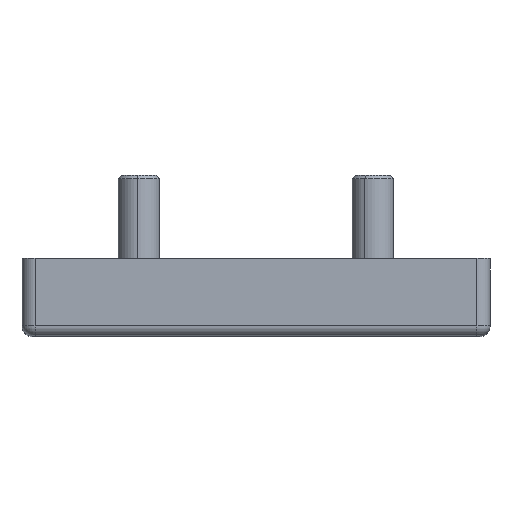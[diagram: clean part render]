
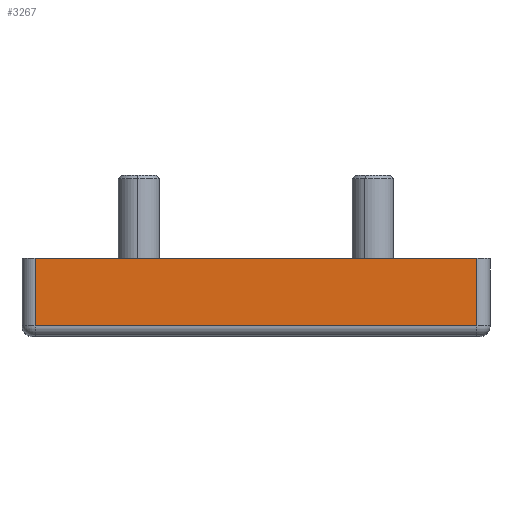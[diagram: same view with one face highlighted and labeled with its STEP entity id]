
A CAD part, top view. The second image highlights one B-rep face of the part: STEP entity #3267.
In plain terms, the highlighted planar face has unit normal (0, 0, 1).
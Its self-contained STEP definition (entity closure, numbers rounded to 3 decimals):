
#11 = VERTEX_POINT ( 'NONE', #6112 ) ;
#997 = DIRECTION ( 'NONE',  ( 0., 1., 0. ) ) ;
#1091 = ORIENTED_EDGE ( 'NONE', *, *, #4465, .T. ) ;
#1117 = CARTESIAN_POINT ( 'NONE',  ( 627.875, 889.927, 1363.825 ) ) ;
#1176 = VECTOR ( 'NONE', #5275, 1000. ) ;
#1540 = CARTESIAN_POINT ( 'NONE',  ( 712.875, 902.927, 1363.825 ) ) ;
#1695 = VERTEX_POINT ( 'NONE', #6280 ) ;
#1712 = LINE ( 'NONE', #4088, #1176 ) ;
#1766 = EDGE_LOOP ( 'NONE', ( #6852, #4665, #1091, #3750 ) ) ;
#2318 = DIRECTION ( 'NONE',  ( 0., 0., 1. ) ) ;
#2850 = DIRECTION ( 'NONE',  ( 0., -1., 0. ) ) ;
#3018 = CARTESIAN_POINT ( 'NONE',  ( 715.375, 889.927, 1363.825 ) ) ;
#3267 = ADVANCED_FACE ( 'NONE', ( #4463 ), #6825, .T. ) ;
#3298 = VERTEX_POINT ( 'NONE', #1117 ) ;
#3750 = ORIENTED_EDGE ( 'NONE', *, *, #6928, .T. ) ;
#4088 = CARTESIAN_POINT ( 'NONE',  ( 715.375, 902.927, 1363.825 ) ) ;
#4296 = VECTOR ( 'NONE', #997, 1000. ) ;
#4429 = LINE ( 'NONE', #5618, #5674 ) ;
#4463 = FACE_OUTER_BOUND ( 'NONE', #1766, .T. ) ;
#4465 = EDGE_CURVE ( 'NONE', #1695, #6226, #6722, .T. ) ;
#4596 = VECTOR ( 'NONE', #5321, 1000. ) ;
#4665 = ORIENTED_EDGE ( 'NONE', *, *, #6522, .T. ) ;
#4828 = AXIS2_PLACEMENT_3D ( 'NONE', #6279, #2318, #2850 ) ;
#5275 = DIRECTION ( 'NONE',  ( -1., 0., 0. ) ) ;
#5321 = DIRECTION ( 'NONE',  ( 1., 0., 0. ) ) ;
#5559 = EDGE_CURVE ( 'NONE', #11, #3298, #4429, .T. ) ;
#5618 = CARTESIAN_POINT ( 'NONE',  ( 627.875, 902.927, 1363.825 ) ) ;
#5674 = VECTOR ( 'NONE', #6599, 1000. ) ;
#6112 = CARTESIAN_POINT ( 'NONE',  ( 627.875, 902.927, 1363.825 ) ) ;
#6226 = VERTEX_POINT ( 'NONE', #7220 ) ;
#6279 = CARTESIAN_POINT ( 'NONE',  ( 715.375, 902.927, 1363.825 ) ) ;
#6280 = CARTESIAN_POINT ( 'NONE',  ( 712.875, 889.927, 1363.825 ) ) ;
#6522 = EDGE_CURVE ( 'NONE', #3298, #1695, #6953, .T. ) ;
#6599 = DIRECTION ( 'NONE',  ( 0., -1., 0. ) ) ;
#6722 = LINE ( 'NONE', #1540, #4296 ) ;
#6825 = PLANE ( 'NONE',  #4828 ) ;
#6852 = ORIENTED_EDGE ( 'NONE', *, *, #5559, .T. ) ;
#6928 = EDGE_CURVE ( 'NONE', #6226, #11, #1712, .T. ) ;
#6953 = LINE ( 'NONE', #3018, #4596 ) ;
#7220 = CARTESIAN_POINT ( 'NONE',  ( 712.875, 902.927, 1363.825 ) ) ;
